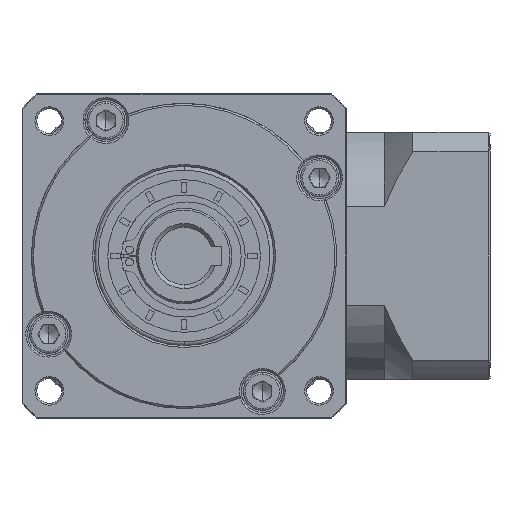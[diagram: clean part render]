
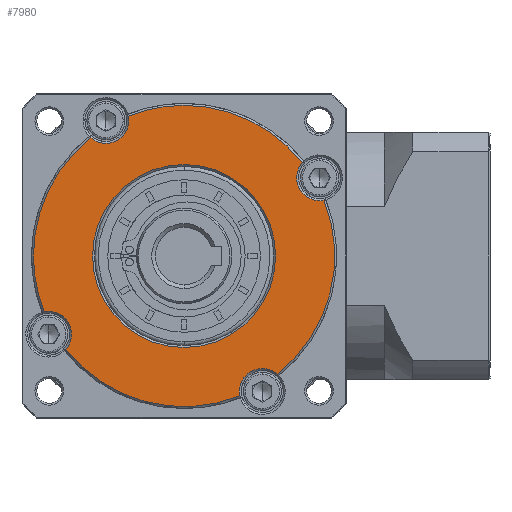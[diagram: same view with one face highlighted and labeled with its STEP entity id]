
A CAD part, left-side view. The second image highlights one B-rep face of the part: STEP entity #7980.
In plain terms, the highlighted planar face has unit normal (-1, 0, 0).
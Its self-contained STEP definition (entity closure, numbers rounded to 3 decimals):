
#183 = EDGE_CURVE ( 'NONE', #106940, #66370, #163173, .T. ) ;
#4989 = CIRCLE ( 'NONE', #47541, 39.5 ) ;
#5626 = CARTESIAN_POINT ( 'NONE',  ( -81.328, -6.446, -125.264 ) ) ;
#7050 = AXIS2_PLACEMENT_3D ( 'NONE', #17673, #109215, #30879 ) ;
#7980 = ADVANCED_FACE ( 'NONE', ( #68187, #98906 ), #161704, .T. ) ;
#9644 = VERTEX_POINT ( 'NONE', #42284 ) ;
#10132 = EDGE_CURVE ( 'NONE', #146716, #97332, #142497, .T. ) ;
#10395 = ORIENTED_EDGE ( 'NONE', *, *, #11850, .T. ) ;
#11518 = DIRECTION ( 'NONE',  ( 1., 0., 0. ) ) ;
#11850 = EDGE_CURVE ( 'NONE', #133678, #50735, #85435, .T. ) ;
#13194 = VERTEX_POINT ( 'NONE', #60052 ) ;
#13429 = VERTEX_POINT ( 'NONE', #143427 ) ;
#15156 = AXIS2_PLACEMENT_3D ( 'NONE', #42732, #134195, #55897 ) ;
#17208 = DIRECTION ( 'NONE',  ( 1., 0., 0. ) ) ;
#17673 = CARTESIAN_POINT ( 'NONE',  ( -81.328, -26.946, -160.771 ) ) ;
#17998 = CARTESIAN_POINT ( 'NONE',  ( -81.328, -6.446, -85.764 ) ) ;
#18197 = ORIENTED_EDGE ( 'NONE', *, *, #46337, .T. ) ;
#18719 = DIRECTION ( 'NONE',  ( 0., 0., -1. ) ) ;
#19929 = AXIS2_PLACEMENT_3D ( 'NONE', #109902, #31560, #123000 ) ;
#21813 = ORIENTED_EDGE ( 'NONE', *, *, #135889, .F. ) ;
#23026 = AXIS2_PLACEMENT_3D ( 'NONE', #103312, #24938, #116418 ) ;
#23029 = CIRCLE ( 'NONE', #154966, 39.5 ) ;
#23435 = ORIENTED_EDGE ( 'NONE', *, *, #183, .T. ) ;
#24938 = DIRECTION ( 'NONE',  ( 1., 0., 0. ) ) ;
#26930 = CARTESIAN_POINT ( 'NONE',  ( -81.328, -6.446, -125.264 ) ) ;
#28658 = ORIENTED_EDGE ( 'NONE', *, *, #128979, .F. ) ;
#28936 = CARTESIAN_POINT ( 'NONE',  ( -81.328, 29.061, -145.764 ) ) ;
#30879 = DIRECTION ( 'NONE',  ( 0., 0., -1. ) ) ;
#31560 = DIRECTION ( 'NONE',  ( 1., 0., 0. ) ) ;
#32733 = CIRCLE ( 'NONE', #19929, 39.5 ) ;
#35412 = CARTESIAN_POINT ( 'NONE',  ( -81.328, -41.953, -104.764 ) ) ;
#36652 = CARTESIAN_POINT ( 'NONE',  ( -81.328, -41.953, -104.764 ) ) ;
#36985 = CARTESIAN_POINT ( 'NONE',  ( -81.328, -30.915, -156.272 ) ) ;
#40081 = DIRECTION ( 'NONE',  ( 0., 0., 1. ) ) ;
#40366 = AXIS2_PLACEMENT_3D ( 'NONE', #35412, #126871, #48589 ) ;
#41983 = CARTESIAN_POINT ( 'NONE',  ( -81.328, -6.446, -125.264 ) ) ;
#42099 = DIRECTION ( 'NONE',  ( 0., 0., -1. ) ) ;
#42139 = EDGE_CURVE ( 'NONE', #13194, #42774, #142562, .T. ) ;
#42284 = CARTESIAN_POINT ( 'NONE',  ( -81.328, 18.024, -94.256 ) ) ;
#42732 = CARTESIAN_POINT ( 'NONE',  ( -81.328, 14.054, -89.757 ) ) ;
#42774 = VERTEX_POINT ( 'NONE', #142134 ) ;
#45475 = DIRECTION ( 'NONE',  ( 1., 0., 0. ) ) ;
#46337 = EDGE_CURVE ( 'NONE', #97332, #146716, #165594, .T. ) ;
#47541 = AXIS2_PLACEMENT_3D ( 'NONE', #123698, #45475, #136878 ) ;
#48422 = VERTEX_POINT ( 'NONE', #151069 ) ;
#48589 = DIRECTION ( 'NONE',  ( 0., 0., -1. ) ) ;
#49726 = DIRECTION ( 'NONE',  ( 1., 0., 0. ) ) ;
#49814 = DIRECTION ( 'NONE',  ( 0., 0., -1. ) ) ;
#50735 = VERTEX_POINT ( 'NONE', #85034 ) ;
#51045 = EDGE_CURVE ( 'NONE', #13429, #9644, #4989, .T. ) ;
#55159 = DIRECTION ( 'NONE',  ( 0., -1., 0. ) ) ;
#55897 = DIRECTION ( 'NONE',  ( 0., 0., -1. ) ) ;
#60052 = CARTESIAN_POINT ( 'NONE',  ( -81.328, -43.141, -110.645 ) ) ;
#60165 = CIRCLE ( 'NONE', #84282, 39.5 ) ;
#64374 = AXIS2_PLACEMENT_3D ( 'NONE', #89914, #11518, #103000 ) ;
#64707 = CARTESIAN_POINT ( 'NONE',  ( -81.328, -6.446, -125.264 ) ) ;
#65283 = CIRCLE ( 'NONE', #40366, 6. ) ;
#66370 = VERTEX_POINT ( 'NONE', #36985 ) ;
#68187 = FACE_OUTER_BOUND ( 'NONE', #159149, .T. ) ;
#71835 = CARTESIAN_POINT ( 'NONE',  ( -81.328, -30.446, -125.264 ) ) ;
#73183 = CARTESIAN_POINT ( 'NONE',  ( -81.328, 17.554, -125.264 ) ) ;
#77907 = DIRECTION ( 'NONE',  ( 0., 0., 1. ) ) ;
#79626 = CARTESIAN_POINT ( 'NONE',  ( -81.328, -21.065, -161.96 ) ) ;
#80799 = ORIENTED_EDGE ( 'NONE', *, *, #141949, .T. ) ;
#84282 = AXIS2_PLACEMENT_3D ( 'NONE', #95649, #17208, #108764 ) ;
#85034 = CARTESIAN_POINT ( 'NONE',  ( -81.328, 24.562, -149.734 ) ) ;
#85435 = CIRCLE ( 'NONE', #98992, 6. ) ;
#89914 = CARTESIAN_POINT ( 'NONE',  ( -81.328, -6.446, -125.264 ) ) ;
#94006 = AXIS2_PLACEMENT_3D ( 'NONE', #5626, #97142, #18719 ) ;
#95132 = CIRCLE ( 'NONE', #64374, 39.5 ) ;
#95635 = ORIENTED_EDGE ( 'NONE', *, *, #101407, .F. ) ;
#95649 = CARTESIAN_POINT ( 'NONE',  ( -81.328, -6.446, -125.264 ) ) ;
#95803 = ORIENTED_EDGE ( 'NONE', *, *, #51045, .F. ) ;
#97142 = DIRECTION ( 'NONE',  ( -1., 0., 0. ) ) ;
#97332 = VERTEX_POINT ( 'NONE', #71835 ) ;
#98906 = FACE_BOUND ( 'NONE', #128890, .T. ) ;
#98992 = AXIS2_PLACEMENT_3D ( 'NONE', #28936, #120407, #42099 ) ;
#99124 = EDGE_CURVE ( 'NONE', #48422, #9644, #117760, .T. ) ;
#101241 = CARTESIAN_POINT ( 'NONE',  ( -81.328, 30.249, -139.883 ) ) ;
#101407 = EDGE_CURVE ( 'NONE', #133678, #13429, #32733, .T. ) ;
#102445 = VERTEX_POINT ( 'NONE', #17998 ) ;
#103000 = DIRECTION ( 'NONE',  ( 0., 0., 1. ) ) ;
#103312 = CARTESIAN_POINT ( 'NONE',  ( -81.328, -6.446, -125.264 ) ) ;
#106940 = VERTEX_POINT ( 'NONE', #79626 ) ;
#107482 = CIRCLE ( 'NONE', #165239, 39.5 ) ;
#108764 = DIRECTION ( 'NONE',  ( 0., 0., 1. ) ) ;
#109145 = AXIS2_PLACEMENT_3D ( 'NONE', #41983, #133453, #55159 ) ;
#109215 = DIRECTION ( 'NONE',  ( 1., 0., 0. ) ) ;
#109902 = CARTESIAN_POINT ( 'NONE',  ( -81.328, -6.446, -125.264 ) ) ;
#112182 = ORIENTED_EDGE ( 'NONE', *, *, #148132, .F. ) ;
#113127 = EDGE_CURVE ( 'NONE', #13194, #66370, #107482, .T. ) ;
#113998 = ORIENTED_EDGE ( 'NONE', *, *, #10132, .T. ) ;
#116418 = DIRECTION ( 'NONE',  ( 0., -1., 0. ) ) ;
#117760 = CIRCLE ( 'NONE', #15156, 6. ) ;
#118384 = DIRECTION ( 'NONE',  ( 1., 0., 0. ) ) ;
#119806 = CARTESIAN_POINT ( 'NONE',  ( -81.328, 8.173, -88.569 ) ) ;
#120407 = DIRECTION ( 'NONE',  ( 1., 0., 0. ) ) ;
#121321 = VERTEX_POINT ( 'NONE', #150273 ) ;
#123000 = DIRECTION ( 'NONE',  ( 0., 1., 0. ) ) ;
#123698 = CARTESIAN_POINT ( 'NONE',  ( -81.328, -6.446, -125.264 ) ) ;
#126019 = ORIENTED_EDGE ( 'NONE', *, *, #42139, .T. ) ;
#126871 = DIRECTION ( 'NONE',  ( 1., 0., 0. ) ) ;
#127264 = ORIENTED_EDGE ( 'NONE', *, *, #113127, .F. ) ;
#128010 = CARTESIAN_POINT ( 'NONE',  ( -81.328, 14.054, -89.757 ) ) ;
#128092 = DIRECTION ( 'NONE',  ( 1., 0., 0. ) ) ;
#128890 = EDGE_LOOP ( 'NONE', ( #18197, #113998 ) ) ;
#128979 = EDGE_CURVE ( 'NONE', #106940, #50735, #23029, .T. ) ;
#130028 = EDGE_CURVE ( 'NONE', #138566, #48422, #165828, .T. ) ;
#133453 = DIRECTION ( 'NONE',  ( 1., 0., 0. ) ) ;
#133678 = VERTEX_POINT ( 'NONE', #101241 ) ;
#134195 = DIRECTION ( 'NONE',  ( 1., 0., 0. ) ) ;
#135889 = EDGE_CURVE ( 'NONE', #102445, #121321, #95132, .T. ) ;
#136878 = DIRECTION ( 'NONE',  ( 0., 1., 0. ) ) ;
#138566 = VERTEX_POINT ( 'NONE', #119806 ) ;
#140796 = ORIENTED_EDGE ( 'NONE', *, *, #99124, .T. ) ;
#141125 = DIRECTION ( 'NONE',  ( 0., 0., -1. ) ) ;
#141949 = EDGE_CURVE ( 'NONE', #42774, #121321, #65283, .T. ) ;
#142134 = CARTESIAN_POINT ( 'NONE',  ( -81.328, -41.953, -110.764 ) ) ;
#142497 = CIRCLE ( 'NONE', #23026, 24. ) ;
#142562 = CIRCLE ( 'NONE', #149906, 6. ) ;
#143427 = CARTESIAN_POINT ( 'NONE',  ( -81.328, 33.054, -125.264 ) ) ;
#144213 = AXIS2_PLACEMENT_3D ( 'NONE', #128010, #49726, #141125 ) ;
#146716 = VERTEX_POINT ( 'NONE', #73183 ) ;
#148132 = EDGE_CURVE ( 'NONE', #138566, #102445, #60165, .T. ) ;
#149906 = AXIS2_PLACEMENT_3D ( 'NONE', #36652, #128092, #49814 ) ;
#150273 = CARTESIAN_POINT ( 'NONE',  ( -81.328, -37.454, -100.795 ) ) ;
#151069 = CARTESIAN_POINT ( 'NONE',  ( -81.328, 14.054, -95.757 ) ) ;
#154966 = AXIS2_PLACEMENT_3D ( 'NONE', #26930, #118384, #40081 ) ;
#155328 = ORIENTED_EDGE ( 'NONE', *, *, #130028, .T. ) ;
#156188 = DIRECTION ( 'NONE',  ( 1., 0., 0. ) ) ;
#159149 = EDGE_LOOP ( 'NONE', ( #112182, #155328, #140796, #95803, #95635, #10395, #28658, #23435, #127264, #126019, #80799, #21813 ) ) ;
#161704 = PLANE ( 'NONE',  #94006 ) ;
#163173 = CIRCLE ( 'NONE', #7050, 6. ) ;
#165239 = AXIS2_PLACEMENT_3D ( 'NONE', #64707, #156188, #77907 ) ;
#165594 = CIRCLE ( 'NONE', #109145, 24. ) ;
#165828 = CIRCLE ( 'NONE', #144213, 6. ) ;
